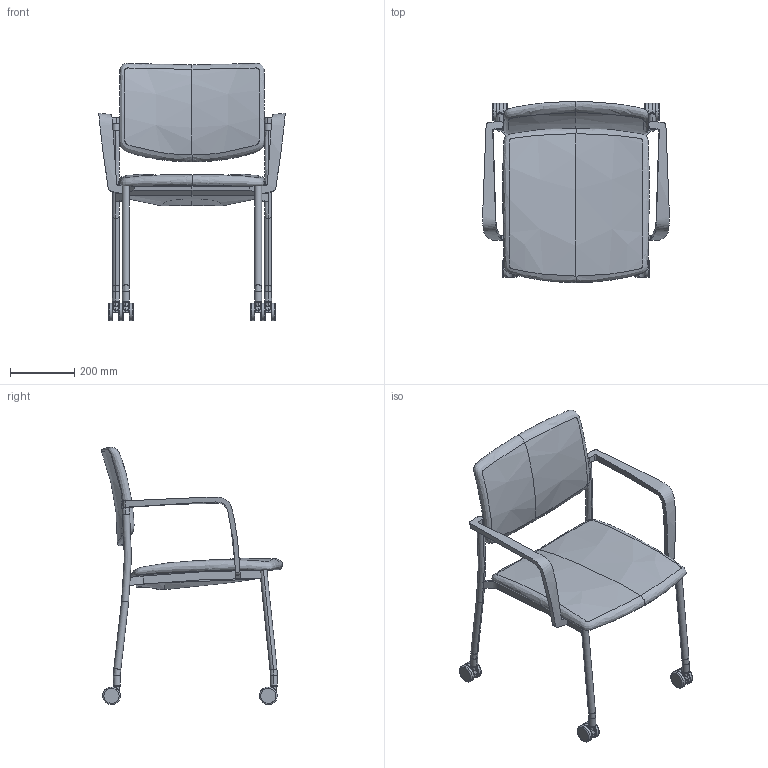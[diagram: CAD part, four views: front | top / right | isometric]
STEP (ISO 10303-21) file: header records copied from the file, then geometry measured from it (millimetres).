
FILE_DESCRIPTION(/* description */ (''),/* implementation_level */ '2;1');
FILE_NAME(/* name */ 'STE419C',/* time_stamp */ '2021-11-22T21:49:26+01:00',/* author */ (''),/* organization */ (''),/* preprocessor_version */ 'ST-DEVELOPER v16.5',/* originating_system */ '',/* authorisation */ '');
FILE_SCHEMA (('CONFIG_CONTROL_DESIGN'));
Length unit declared in the file: millimetre
Products named in the file (1): Document
Bounding box: 580.87 x 564.48 x 802.07 mm (x, y, z)
Volume: 12199204.2 mm3; surface area: 1319827.9 mm2
Topology: 10 solids, 29 shells, 220 faces, 489 edges, 307 vertices
Faces by surface type: bspline 112, plane 58, cylinder 50
Entity records: 12082 total; most frequent: CARTESIAN_POINT 8938, ORIENTED_EDGE 920, EDGE_CURVE 486, VERTEX_POINT 301, B_SPLINE_CURVE_WITH_KNOTS 252, ADVANCED_FACE 220, FACE_OUTER_BOUND 220, EDGE_LOOP 220
